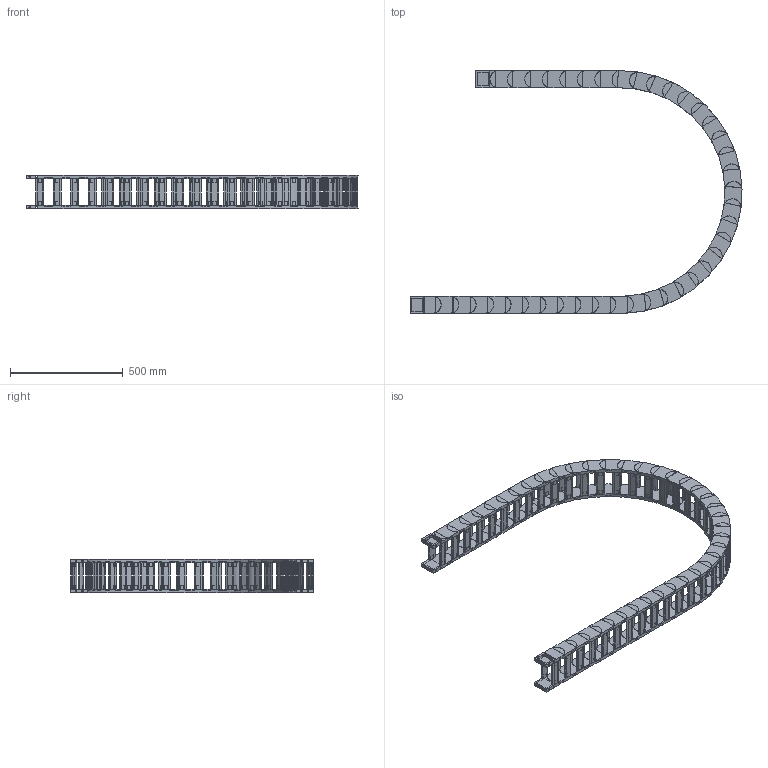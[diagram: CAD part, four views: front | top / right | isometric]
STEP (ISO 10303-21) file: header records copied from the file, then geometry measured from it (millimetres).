
FILE_DESCRIPTION((''),'2;1');
FILE_NAME('HD55-R500-ZPT_ASM','2022-06-17T17:25:29',('admin'),(''),'CREO PARAMETRIC BY PTC INC, 2021164','CREO PARAMETRIC BY PTC INC, 2021164','');
FILE_SCHEMA(('CONFIG_CONTROL_DESIGN','GEOMETRIC_VALIDATION_PROPERTIES_MIM'));
Length unit declared in the file: millimetre
Products named in the file (6): HD-55; 55-500001; HD55_ASM; H55-T1; H55-T2; HD55-R500-ZPT_ASM
Assembly tree (44 placements, depth 3):
  HD55-R500-ZPT_ASM
    HD55_ASM  x38
      HD-55
      55-500001
    H55-T1
    H55-T2
    55-500001  x2
Bounding box: 1472.73 x 1075.69 x 149.6 mm (x, y, z)
Volume: 9866494.5 mm3; surface area: 3049727.8 mm2
Topology: 160 solids, 160 shells, 2622 faces, 6726 edges, 4588 vertices
Faces by surface type: plane 2180, cylinder 442
Entity records: 8951 total; most frequent: CARTESIAN_POINT 1324, DIRECTION 1286, ORIENTED_EDGE 1172, EDGE_CURVE 586, AXIS2_PLACEMENT_3D 434, VECTOR 418, LINE 418, VERTEX_POINT 396
